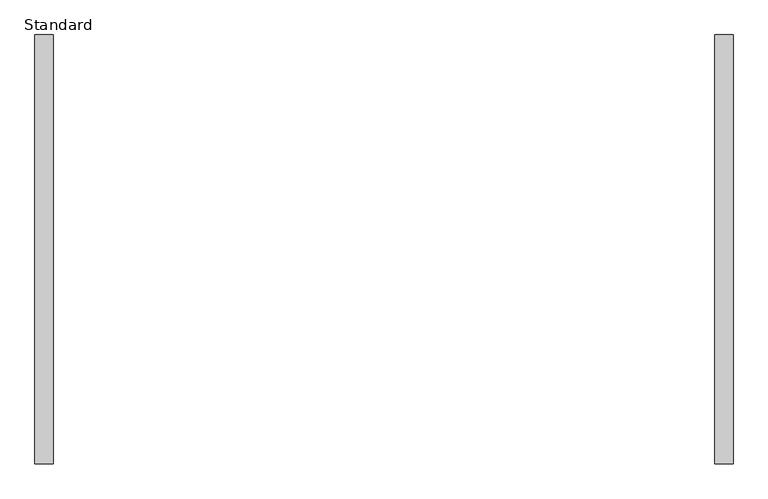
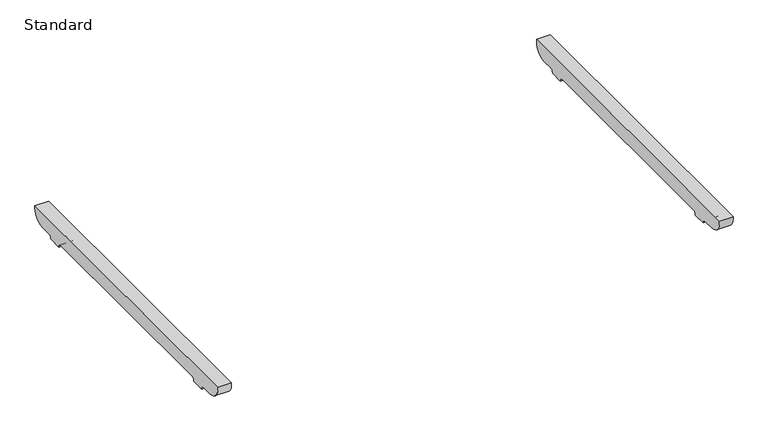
"""IFC4 building model written with IfcOpenShell, lengths in millimetres: furniture geometry, BDG_BossDesign_Tbls_AgentTables4Legs_Nested : Standard."""

from ifc_helpers import new_model, si_unit, point, frame, frame_2d, origin, place, context, project, spatial, polyline, circle_curve, trimmed, segment, composite_curve, outline, extrude, source, transform, mapped, element, save


def standard_36c426fe(model_context):
    return source(origin(), model_context, "Body", "SweptSolid", [
        extrude(outline(composite_curve([segment(polyline([(480.5450184, 672.0), (442.7000122, 672.0)]), True, "CONTINUOUS"), segment(trimmed(circle_curve(frame_2d((442.7000122, 660.0)), 12.0), [point((442.7000122, 672.0))], [point((430.7000122, 660.0))], True, "CARTESIAN"), True, "CONTINUOUS"), segment(polyline([(430.7000122, 660.0), (385.7000122, 660.0)]), True, "CONTINUOUS"), segment(trimmed(circle_curve(frame_2d((373.7000122, 660.0)), 12.0), [point((385.7000122, 660.0))], [point((373.7000122, 672.0))], True, "CARTESIAN"), True, "CONTINUOUS"), segment(polyline([(373.7000122, 672.0), (-373.7000122, 672.0)]), True, "CONTINUOUS"), segment(trimmed(circle_curve(frame_2d((-373.7000122, 660.0)), 12.0), [point((-373.7000122, 672.0))], [point((-385.7000122, 660.0))], True, "CARTESIAN"), True, "CONTINUOUS"), segment(polyline([(-385.7000122, 660.0), (-430.7000122, 660.0)]), True, "CONTINUOUS"), segment(trimmed(circle_curve(frame_2d((-442.7000122, 660.0)), 12.0), [point((-430.7000122, 660.0))], [point((-442.7000122, 672.0))], True, "CARTESIAN"), True, "CONTINUOUS"), segment(polyline([(-442.7000122, 672.0), (-480.5450184, 672.0)]), True, "CONTINUOUS"), segment(trimmed(circle_curve(frame_2d((-478.2220439, 716.5514119)), 44.6119324), [point((-480.5450184, 672.0))], [point((-522.5, 722.0))], False, "CARTESIAN"), True, "CONTINUOUS"), segment(polyline([(-522.5, 722.0), (522.5, 722.0)]), True, "CONTINUOUS"), segment(trimmed(circle_curve(frame_2d((478.2220439, 716.5514119)), 44.6119324), [point((522.5, 722.0))], [point((480.5450184, 672.0))], False, "CARTESIAN"), True, "CONTINUOUS")], self_intersect=False)), frame((805.0, 0.0, 0.0), z_axis=(1.0, 0.0, 0.0), x_axis=(0.0, 1.0, 0.0)), (0.0, 0.0, 1.0), 45.0),
        extrude(outline(composite_curve([segment(polyline([(480.5450184, 672.0), (442.7000122, 672.0)]), True, "CONTINUOUS"), segment(trimmed(circle_curve(frame_2d((442.7000122, 660.0)), 12.0), [point((442.7000122, 672.0))], [point((430.7000122, 660.0))], True, "CARTESIAN"), True, "CONTINUOUS"), segment(polyline([(430.7000122, 660.0), (385.7000122, 660.0)]), True, "CONTINUOUS"), segment(trimmed(circle_curve(frame_2d((373.7000122, 660.0)), 12.0), [point((385.7000122, 660.0))], [point((373.7000122, 672.0))], True, "CARTESIAN"), True, "CONTINUOUS"), segment(polyline([(373.7000122, 672.0), (-373.7000122, 672.0)]), True, "CONTINUOUS"), segment(trimmed(circle_curve(frame_2d((-373.7000122, 660.0)), 12.0), [point((-373.7000122, 672.0))], [point((-385.7000122, 660.0))], True, "CARTESIAN"), True, "CONTINUOUS"), segment(polyline([(-385.7000122, 660.0), (-430.7000122, 660.0)]), True, "CONTINUOUS"), segment(trimmed(circle_curve(frame_2d((-442.7000122, 660.0)), 12.0), [point((-430.7000122, 660.0))], [point((-442.7000122, 672.0))], True, "CARTESIAN"), True, "CONTINUOUS"), segment(polyline([(-442.7000122, 672.0), (-480.5450184, 672.0)]), True, "CONTINUOUS"), segment(trimmed(circle_curve(frame_2d((-478.2220439, 716.5514119)), 44.6119324), [point((-480.5450184, 672.0))], [point((-522.5, 722.0))], False, "CARTESIAN"), True, "CONTINUOUS"), segment(polyline([(-522.5, 722.0), (522.5, 722.0)]), True, "CONTINUOUS"), segment(trimmed(circle_curve(frame_2d((478.2220439, 716.5514119)), 44.6119324), [point((522.5, 722.0))], [point((480.5450184, 672.0))], False, "CARTESIAN"), True, "CONTINUOUS")], self_intersect=False)), frame((-850.0, 0.0, 0.0), z_axis=(1.0, 0.0, 0.0), x_axis=(0.0, 1.0, 0.0)), (0.0, 0.0, 1.0), 45.0),
    ])


if __name__ == "__main__":
    model = new_model("IFC4")
    model_context = context("Model", 3, world=origin())
    ifc_project = project(units=[si_unit("LENGTHUNIT", "METRE", prefix="MILLI")], contexts=[model_context])
    site = spatial("IfcSite", under=ifc_project)
    building = spatial("IfcBuilding", under=site)
    placement = place(None, origin())
    standard_shape = standard_36c426fe(model_context)
    element("IfcFurniture", 1, ObjectType="BDG_BossDesign_Tbls_AgentTables4Legs_Nested : Standard", at=placement, inside=building, context=model_context, shape_type="MappedRepresentation", body=[
        mapped(standard_shape, transform((0.0, 0.0, 0.0), x_axis=(1.0, 0.0, 0.0), y_axis=(0.0, 1.0, 0.0), z_axis=(0.0, 0.0, 1.0))),
    ])
    save(model, "model.ifc")
